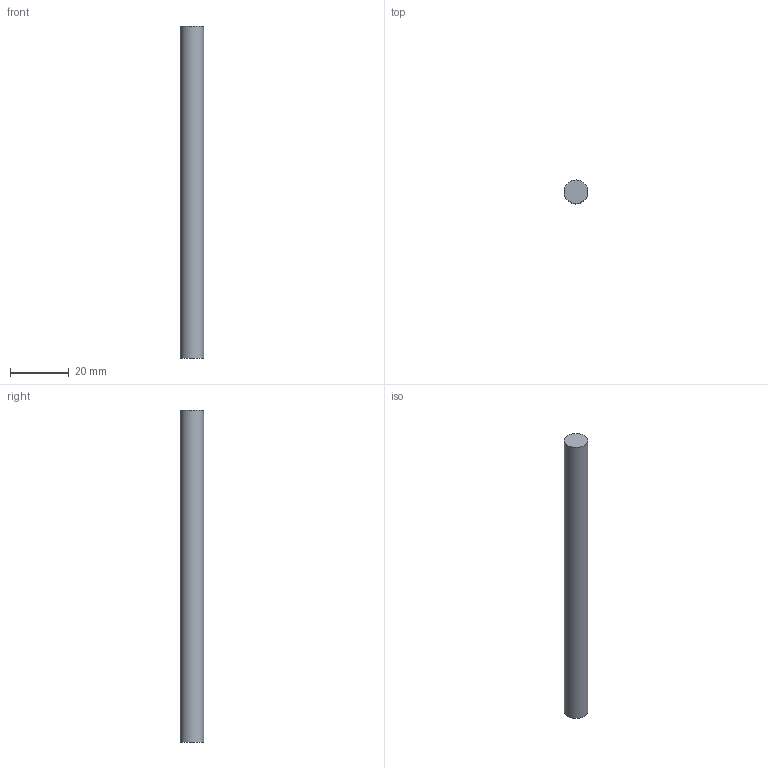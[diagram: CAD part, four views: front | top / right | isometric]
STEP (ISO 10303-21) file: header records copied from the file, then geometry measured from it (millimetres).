
FILE_DESCRIPTION(('FreeCAD Model'),'2;1');
FILE_NAME('Open CASCADE Shape Model','2026-10-30T14:45:00',('FreeCAD'),( 'FreeCAD'),'Open CASCADE STEP processor 7.8','FreeCAD','Unknown');
FILE_SCHEMA(('AUTOMOTIVE_DESIGN { 1 0 10303 214 1 1 1 1 }'));
Length unit declared in the file: millimetre
Products named in the file (1): Open CASCADE STEP translator 7.8 13
Bounding box: 8 x 8 x 112.65 mm (x, y, z)
Volume: 5662.4 mm3; surface area: 2931.7 mm2
Topology: 1 solids, 1 shells, 3 faces, 3 edges, 2 vertices
Faces by surface type: plane 2, cylinder 1
Full cylindrical faces by diameter (mm): 8 x1
Entity records: 69 total; most frequent: DIRECTION 13, CARTESIAN_POINT 9, AXIS2_PLACEMENT_3D 6, ORIENTED_EDGE 6, ADVANCED_FACE 3, FACE_BOUND 3, EDGE_LOOP 3, EDGE_CURVE 3
